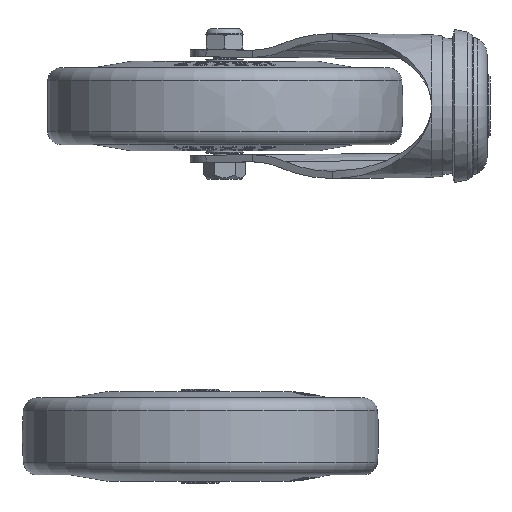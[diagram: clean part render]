
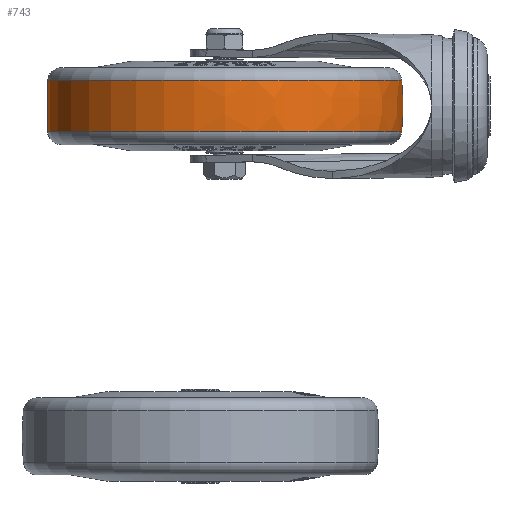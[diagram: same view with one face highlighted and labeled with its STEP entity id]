
A CAD part, left-side view. The second image highlights one B-rep face of the part: STEP entity #743.
In plain terms, the highlighted free-form (B-spline) face has degree [3, 3] with [4, 7] control points.
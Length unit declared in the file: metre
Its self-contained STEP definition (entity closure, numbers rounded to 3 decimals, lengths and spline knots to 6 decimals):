
#743=ADVANCED_FACE('',(#2239,#2240),#2241,.T.);
#2239=FACE_OUTER_BOUND('',#5366,.T.);
#2240=FACE_OUTER_BOUND('',#5367,.T.);
#2241=(B_SPLINE_SURFACE(3,3,((#5369,#5370,#5371,#5372,#5373,#5374,#5375),(#5376,#5377,#5378,#5379,#5380,#5381,#5382),(#5383,#5384,#5385,#5386,#5387,#5388,#5389),(#5390,#5391,#5392,#5393,#5394,#5395,#5396)),.UNSPECIFIED.,.F.,.T.,.F.)B_SPLINE_SURFACE_WITH_KNOTS((4,4),(4,3,4),(0.0,6.283185),(-0.098282,0.,0.098282),.UNSPECIFIED.)RATIONAL_B_SPLINE_SURFACE(((1.0,0.333,0.333,1.0,0.333,0.333,1.0),(0.997,0.332,0.332,0.997,0.332,0.332,0.997),(0.997,0.332,0.332,0.997,0.332,0.332,0.997),(1.0,0.333,0.333,1.0,0.333,0.333,1.0)))BOUNDED_SURFACE()REPRESENTATION_ITEM('')GEOMETRIC_REPRESENTATION_ITEM()SURFACE());
#5366=EDGE_LOOP('',(#12815));
#5367=EDGE_LOOP('',(#12816));
#5369=CARTESIAN_POINT('',(0.008991,0.,-0.062058));
#5370=CARTESIAN_POINT('',(0.008991,0.124116,-0.062058));
#5371=CARTESIAN_POINT('',(0.008991,0.124116,0.062058));
#5372=CARTESIAN_POINT('',(0.008991,0.,0.062058));
#5373=CARTESIAN_POINT('',(0.008991,-0.124116,0.062058));
#5374=CARTESIAN_POINT('',(0.008991,-0.124116,-0.062058));
#5375=CARTESIAN_POINT('',(0.008991,0.,-0.062058));
#5376=CARTESIAN_POINT('',(0.003007,0.,-0.062648));
#5377=CARTESIAN_POINT('',(0.003007,0.125296,-0.062648));
#5378=CARTESIAN_POINT('',(0.003007,0.125296,0.062648));
#5379=CARTESIAN_POINT('',(0.003007,0.,0.062648));
#5380=CARTESIAN_POINT('',(0.003007,-0.125296,0.062648));
#5381=CARTESIAN_POINT('',(0.003007,-0.125296,-0.062648));
#5382=CARTESIAN_POINT('',(0.003007,0.,-0.062648));
#5383=CARTESIAN_POINT('',(-0.003007,0.,-0.062648));
#5384=CARTESIAN_POINT('',(-0.003007,0.125296,-0.062648));
#5385=CARTESIAN_POINT('',(-0.003007,0.125296,0.062648));
#5386=CARTESIAN_POINT('',(-0.003007,0.,0.062648));
#5387=CARTESIAN_POINT('',(-0.003007,-0.125296,0.062648));
#5388=CARTESIAN_POINT('',(-0.003007,-0.125296,-0.062648));
#5389=CARTESIAN_POINT('',(-0.003007,0.,-0.062648));
#5390=CARTESIAN_POINT('',(-0.008991,0.,-0.062058));
#5391=CARTESIAN_POINT('',(-0.008991,0.124116,-0.062058));
#5392=CARTESIAN_POINT('',(-0.008991,0.124116,0.062058));
#5393=CARTESIAN_POINT('',(-0.008991,0.,0.062058));
#5394=CARTESIAN_POINT('',(-0.008991,-0.124116,0.062058));
#5395=CARTESIAN_POINT('',(-0.008991,-0.124116,-0.062058));
#5396=CARTESIAN_POINT('',(-0.008991,0.,-0.062058));
#12815=ORIENTED_EDGE('',*,*,#24810,.T.);
#12816=ORIENTED_EDGE('',*,*,#24811,.F.);
#24810=EDGE_CURVE('',#28685,#28685,#28686,.T.);
#24811=EDGE_CURVE('',#28687,#28687,#28688,.T.);
#28685=VERTEX_POINT('',#35176);
#28686=CIRCLE('',#35177,0.062058);
#28687=VERTEX_POINT('',#35178);
#28688=CIRCLE('',#35179,0.062058);
#35176=CARTESIAN_POINT('',(0.008991,0.0,0.062058));
#35177=AXIS2_PLACEMENT_3D('',#52024,#52025,#52026);
#35178=CARTESIAN_POINT('',(-0.008991,0.0,0.062058));
#35179=AXIS2_PLACEMENT_3D('',#52027,#52028,#52029);
#52024=CARTESIAN_POINT('',(0.008991,0.0,0.0));
#52025=DIRECTION('',(-1.0,0.0,0.0));
#52026=DIRECTION('',(0.0,0.0,1.0));
#52027=CARTESIAN_POINT('',(-0.008991,0.0,0.0));
#52028=DIRECTION('',(-1.0,0.0,0.0));
#52029=DIRECTION('',(0.0,0.0,1.0));
